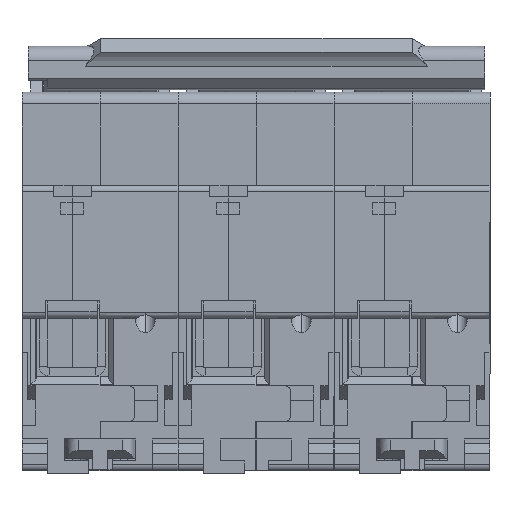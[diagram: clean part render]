
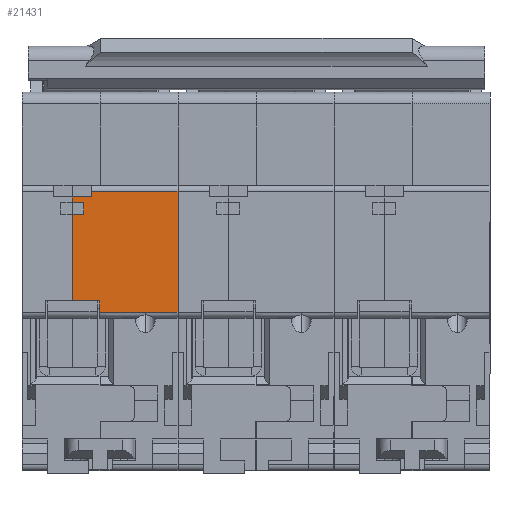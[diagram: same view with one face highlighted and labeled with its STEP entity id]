
A CAD part, front view. The second image highlights one B-rep face of the part: STEP entity #21431.
In plain terms, the highlighted planar face has unit normal (0, -1, 0) as drawn and (-1, 0, 0) by its records, which use the part's own axes.
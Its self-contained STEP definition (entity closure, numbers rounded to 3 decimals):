
#137 = DIRECTION ( 'NONE',  ( 0., 0., -1. ) ) ;
#324 = LINE ( 'NONE', #18834, #22100 ) ;
#512 = LINE ( 'NONE', #20019, #18631 ) ;
#690 = CARTESIAN_POINT ( 'NONE',  ( -17.65, -36.1, -0.1 ) ) ;
#1123 = DIRECTION ( 'NONE',  ( 0., 1., 0. ) ) ;
#1805 = CARTESIAN_POINT ( 'NONE',  ( -17.65, -19.1, -2.8 ) ) ;
#1831 = VECTOR ( 'NONE', #23086, 1000. ) ;
#1932 = CARTESIAN_POINT ( 'NONE',  ( -17.65, -36.1, -0.1 ) ) ;
#2326 = CARTESIAN_POINT ( 'NONE',  ( -17.65, -18.1, -4.8 ) ) ;
#2644 = ORIENTED_EDGE ( 'NONE', *, *, #8222, .F. ) ;
#2938 = DIRECTION ( 'NONE',  ( 0., -1., 0. ) ) ;
#3073 = CARTESIAN_POINT ( 'NONE',  ( -17.65, -38.1, -0.1 ) ) ;
#3485 = VERTEX_POINT ( 'NONE', #10847 ) ;
#3999 = CARTESIAN_POINT ( 'NONE',  ( -17.65, -18.1, -1.5 ) ) ;
#4017 = DIRECTION ( 'NONE',  ( 0., 0., 1. ) ) ;
#4599 = LINE ( 'NONE', #18539, #9882 ) ;
#4877 = VERTEX_POINT ( 'NONE', #15544 ) ;
#4998 = LINE ( 'NONE', #8663, #7445 ) ;
#5211 = ORIENTED_EDGE ( 'NONE', *, *, #12781, .F. ) ;
#5402 = VECTOR ( 'NONE', #7944, 1000. ) ;
#5543 = DIRECTION ( 'NONE',  ( 1., 0., 0. ) ) ;
#5918 = ORIENTED_EDGE ( 'NONE', *, *, #21517, .F. ) ;
#6137 = CARTESIAN_POINT ( 'NONE',  ( -17.65, -17.1, 13.5 ) ) ;
#6548 = EDGE_CURVE ( 'NONE', #17925, #4877, #16085, .T. ) ;
#6741 = CARTESIAN_POINT ( 'NONE',  ( -17.65, -18.1, -1.5 ) ) ;
#6744 = EDGE_CURVE ( 'NONE', #9539, #10682, #16019, .T. ) ;
#6898 = LINE ( 'NONE', #11842, #16687 ) ;
#7394 = PLANE ( 'NONE',  #9018 ) ;
#7445 = VECTOR ( 'NONE', #9129, 1000. ) ;
#7944 = DIRECTION ( 'NONE',  ( 0., 1., 0. ) ) ;
#8041 = DIRECTION ( 'NONE',  ( 0., 0., -1. ) ) ;
#8120 = EDGE_CURVE ( 'NONE', #12159, #22893, #8704, .T. ) ;
#8222 = EDGE_CURVE ( 'NONE', #9539, #21447, #20995, .T. ) ;
#8260 = LINE ( 'NONE', #2326, #21938 ) ;
#8350 = CARTESIAN_POINT ( 'NONE',  ( -17.65, -38.1, 13.5 ) ) ;
#8663 = CARTESIAN_POINT ( 'NONE',  ( -17.65, -16.1, -4.8 ) ) ;
#8704 = LINE ( 'NONE', #3999, #22385 ) ;
#8771 = VECTOR ( 'NONE', #17822, 1000. ) ;
#8830 = ORIENTED_EDGE ( 'NONE', *, *, #14143, .F. ) ;
#8911 = VERTEX_POINT ( 'NONE', #13919 ) ;
#9018 = AXIS2_PLACEMENT_3D ( 'NONE', #17848, #5543, #16379 ) ;
#9129 = DIRECTION ( 'NONE',  ( 0., 1., 0. ) ) ;
#9539 = VERTEX_POINT ( 'NONE', #3073 ) ;
#9882 = VECTOR ( 'NONE', #20179, 1000. ) ;
#9954 = ORIENTED_EDGE ( 'NONE', *, *, #6744, .T. ) ;
#10682 = VERTEX_POINT ( 'NONE', #8350 ) ;
#10847 = CARTESIAN_POINT ( 'NONE',  ( -17.65, -21.1, -2.8 ) ) ;
#11160 = ORIENTED_EDGE ( 'NONE', *, *, #13617, .T. ) ;
#11222 = ORIENTED_EDGE ( 'NONE', *, *, #17251, .F. ) ;
#11431 = EDGE_CURVE ( 'NONE', #14159, #12159, #8260, .T. ) ;
#11832 = ORIENTED_EDGE ( 'NONE', *, *, #16681, .T. ) ;
#11842 = CARTESIAN_POINT ( 'NONE',  ( -17.65, -39.1, 13.5 ) ) ;
#12159 = VERTEX_POINT ( 'NONE', #6741 ) ;
#12380 = LINE ( 'NONE', #18719, #21007 ) ;
#12444 = LINE ( 'NONE', #17974, #8771 ) ;
#12781 = EDGE_CURVE ( 'NONE', #21447, #8911, #12444, .T. ) ;
#13164 = ORIENTED_EDGE ( 'NONE', *, *, #8120, .F. ) ;
#13617 = EDGE_CURVE ( 'NONE', #16009, #22893, #512, .T. ) ;
#13896 = EDGE_CURVE ( 'NONE', #16009, #10682, #6898, .T. ) ;
#13919 = CARTESIAN_POINT ( 'NONE',  ( -17.65, -36.1, -4.8 ) ) ;
#14143 = EDGE_CURVE ( 'NONE', #4877, #14159, #4998, .T. ) ;
#14159 = VERTEX_POINT ( 'NONE', #15800 ) ;
#14913 = FACE_OUTER_BOUND ( 'NONE', #22206, .T. ) ;
#14989 = DIRECTION ( 'NONE',  ( 0., 0., 1. ) ) ;
#15476 = CARTESIAN_POINT ( 'NONE',  ( -17.65, -17.1, -1.5 ) ) ;
#15544 = CARTESIAN_POINT ( 'NONE',  ( -17.65, -19.1, -4.8 ) ) ;
#15800 = CARTESIAN_POINT ( 'NONE',  ( -17.65, -18.1, -4.8 ) ) ;
#16009 = VERTEX_POINT ( 'NONE', #6137 ) ;
#16019 = LINE ( 'NONE', #19898, #22973 ) ;
#16085 = LINE ( 'NONE', #1805, #1831 ) ;
#16379 = DIRECTION ( 'NONE',  ( 0., 0., -1. ) ) ;
#16681 = EDGE_CURVE ( 'NONE', #3485, #19809, #12380, .T. ) ;
#16687 = VECTOR ( 'NONE', #2938, 1000. ) ;
#17251 = EDGE_CURVE ( 'NONE', #8911, #19809, #324, .T. ) ;
#17822 = DIRECTION ( 'NONE',  ( 0., 0., -1. ) ) ;
#17848 = CARTESIAN_POINT ( 'NONE',  ( -17.65, -39.1, 13.5 ) ) ;
#17894 = ORIENTED_EDGE ( 'NONE', *, *, #6548, .F. ) ;
#17900 = ORIENTED_EDGE ( 'NONE', *, *, #13896, .F. ) ;
#17925 = VERTEX_POINT ( 'NONE', #20397 ) ;
#17974 = CARTESIAN_POINT ( 'NONE',  ( -17.65, -36.1, -4.8 ) ) ;
#18539 = CARTESIAN_POINT ( 'NONE',  ( -17.65, -19.1, -2.8 ) ) ;
#18631 = VECTOR ( 'NONE', #137, 1000. ) ;
#18719 = CARTESIAN_POINT ( 'NONE',  ( -17.65, -21.1, -2.8 ) ) ;
#18834 = CARTESIAN_POINT ( 'NONE',  ( -17.65, -16.1, -4.8 ) ) ;
#19533 = CARTESIAN_POINT ( 'NONE',  ( -17.65, -21.1, -4.8 ) ) ;
#19809 = VERTEX_POINT ( 'NONE', #19533 ) ;
#19898 = CARTESIAN_POINT ( 'NONE',  ( -17.65, -38.1, 13.5 ) ) ;
#20019 = CARTESIAN_POINT ( 'NONE',  ( -17.65, -17.1, 13.5 ) ) ;
#20025 = DIRECTION ( 'NONE',  ( 0., 1., 0. ) ) ;
#20179 = DIRECTION ( 'NONE',  ( 0., 1., 0. ) ) ;
#20397 = CARTESIAN_POINT ( 'NONE',  ( -17.65, -19.1, -2.8 ) ) ;
#20992 = ORIENTED_EDGE ( 'NONE', *, *, #11431, .F. ) ;
#20995 = LINE ( 'NONE', #690, #5402 ) ;
#21007 = VECTOR ( 'NONE', #8041, 1000. ) ;
#21431 = ADVANCED_FACE ( 'NONE', ( #14913 ), #7394, .F. ) ;
#21447 = VERTEX_POINT ( 'NONE', #1932 ) ;
#21517 = EDGE_CURVE ( 'NONE', #3485, #17925, #4599, .T. ) ;
#21938 = VECTOR ( 'NONE', #14989, 1000. ) ;
#22100 = VECTOR ( 'NONE', #1123, 1000. ) ;
#22206 = EDGE_LOOP ( 'NONE', ( #2644, #9954, #17900, #11160, #13164, #20992, #8830, #17894, #5918, #11832, #11222, #5211 ) ) ;
#22385 = VECTOR ( 'NONE', #20025, 1000. ) ;
#22893 = VERTEX_POINT ( 'NONE', #15476 ) ;
#22973 = VECTOR ( 'NONE', #4017, 1000. ) ;
#23086 = DIRECTION ( 'NONE',  ( 0., 0., -1. ) ) ;
